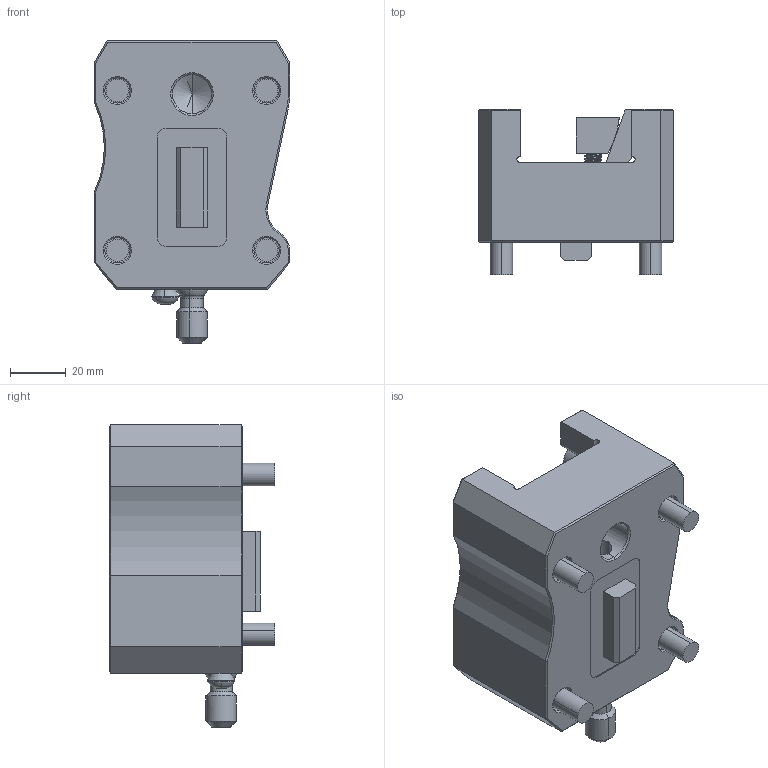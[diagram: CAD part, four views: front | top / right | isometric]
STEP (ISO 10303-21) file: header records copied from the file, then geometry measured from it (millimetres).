
FILE_DESCRIPTION (( 'STEP AP203' ), '1' );
FILE_NAME ('04-0791.STEP', '2022-07-12T15:59:11', ( '' ), ( '' ), 'SwSTEP 2.0', 'SolidWorks 2021', '' );
FILE_SCHEMA (( 'CONFIG_CONTROL_DESIGN' ));
Length unit declared in the file: inch
Products named in the file (13): 22-8749; 40-0003_40-0003; 57-0026; 20-3796; 40-1626_40-1626; 20-3797; 40-1640; 04-0791; 10000016468; 10000015933; 20-1057A; 10000011375; 40-0124
Assembly tree (16 placements, depth 3):
  04-0791
    10000011375
      20-1057A
      22-8749
      40-0003_40-0003
      10000015933
      20-3796
      20-3797
      40-1626_40-1626  x2
      40-1640
      40-0124  x4
      10000016468
      57-0026
Bounding box: 69.85 x 59.14 x 108.18 mm (x, y, z)
Volume: 218631.6 mm3; surface area: 57037.8 mm2
Topology: 15 solids, 15 shells, 628 faces, 1597 edges, 1010 vertices
Faces by surface type: cylinder 341, plane 164, cone 105, torus 10, bspline 8
Entity records: 19220 total; most frequent: CARTESIAN_POINT 6906, ORIENTED_EDGE 2382, DIRECTION 2177, EDGE_CURVE 1191, AXIS2_PLACEMENT_3D 817, VERTEX_POINT 758, VECTOR 543, LINE 543
